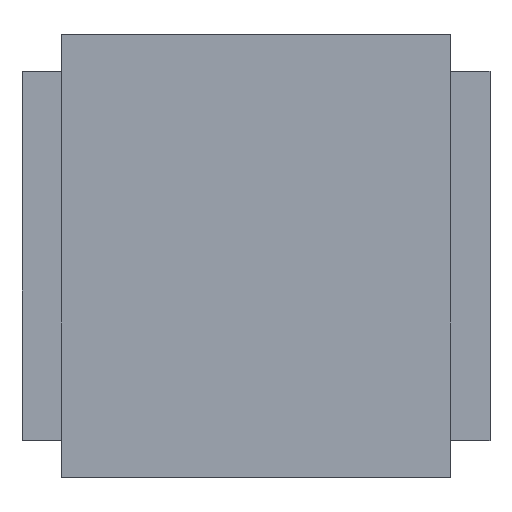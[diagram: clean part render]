
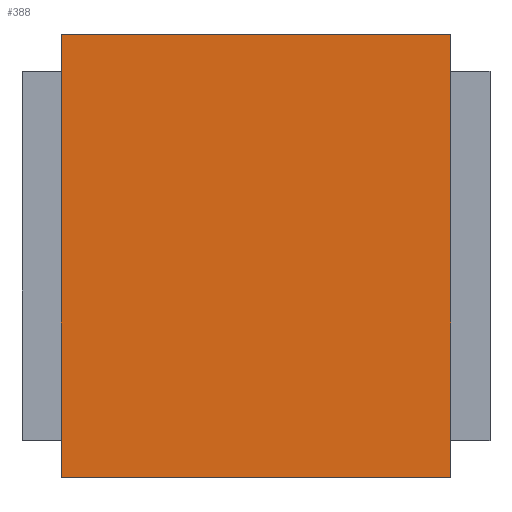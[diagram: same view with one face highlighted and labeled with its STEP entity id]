
A CAD part, top view. The second image highlights one B-rep face of the part: STEP entity #388.
In plain terms, the highlighted planar face has unit normal (0, 0, 1).
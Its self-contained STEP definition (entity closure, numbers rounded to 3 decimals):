
#388=ADVANCED_FACE('',(#643),#645,.T.);
#643=FACE_BOUND('',#644,.T.);
#644=EDGE_LOOP('',(#839,#840,#841,#842));
#645=PLANE('',#646);
#646=AXIS2_PLACEMENT_3D('',#647,#648,#649);
#647=CARTESIAN_POINT('',(0.,0.,1.05));
#648=DIRECTION('',(0.,0.,1.));
#649=DIRECTION('',(-1.,0.,0.));
#839=ORIENTED_EDGE('',*,*,#916,.T.);
#840=ORIENTED_EDGE('',*,*,#938,.T.);
#841=ORIENTED_EDGE('',*,*,#928,.T.);
#842=ORIENTED_EDGE('',*,*,#926,.T.);
#916=EDGE_CURVE('',#1053,#1051,#1054,.F.);
#926=EDGE_CURVE('',#1068,#1053,#1069,.T.);
#928=EDGE_CURVE('',#1071,#1068,#1072,.F.);
#938=EDGE_CURVE('',#1051,#1071,#1086,.T.);
#1051=VERTEX_POINT('',#1323);
#1053=VERTEX_POINT('',#1327);
#1054=LINE('',#1328,#1329);
#1068=VERTEX_POINT('',#1362);
#1069=LINE('',#1363,#1364);
#1071=VERTEX_POINT('',#1369);
#1072=LINE('',#1370,#1371);
#1086=LINE('',#1404,#1405);
#1323=CARTESIAN_POINT('',(-1.166,-1.325,1.05));
#1327=CARTESIAN_POINT('',(-1.166,1.325,1.05));
#1328=CARTESIAN_POINT('',(-1.166,-1.325,1.05));
#1329=VECTOR('',#1330,1.);
#1330=DIRECTION('',(0.,1.,0.));
#1362=CARTESIAN_POINT('',(1.166,1.325,1.05));
#1363=CARTESIAN_POINT('',(1.166,1.325,1.05));
#1364=VECTOR('',#1365,1.);
#1365=DIRECTION('',(-1.,0.,0.));
#1369=CARTESIAN_POINT('',(1.166,-1.325,1.05));
#1370=CARTESIAN_POINT('',(1.166,1.325,1.05));
#1371=VECTOR('',#1372,1.);
#1372=DIRECTION('',(0.,-1.,0.));
#1404=CARTESIAN_POINT('',(-1.166,-1.325,1.05));
#1405=VECTOR('',#1406,1.);
#1406=DIRECTION('',(1.,0.,0.));
